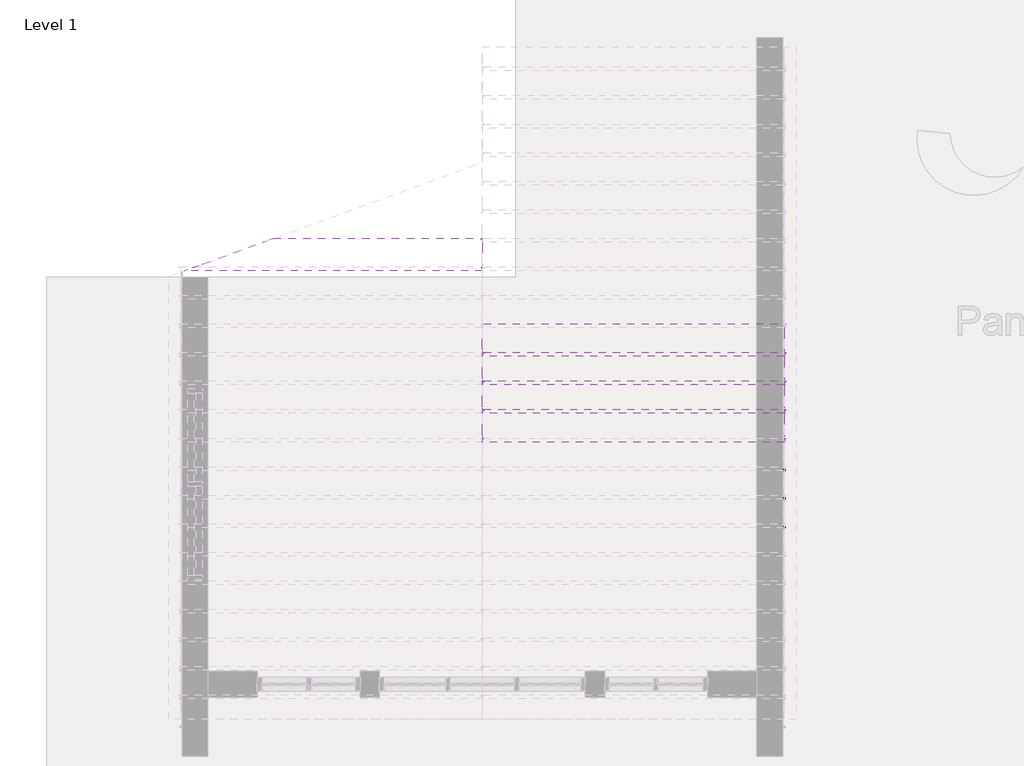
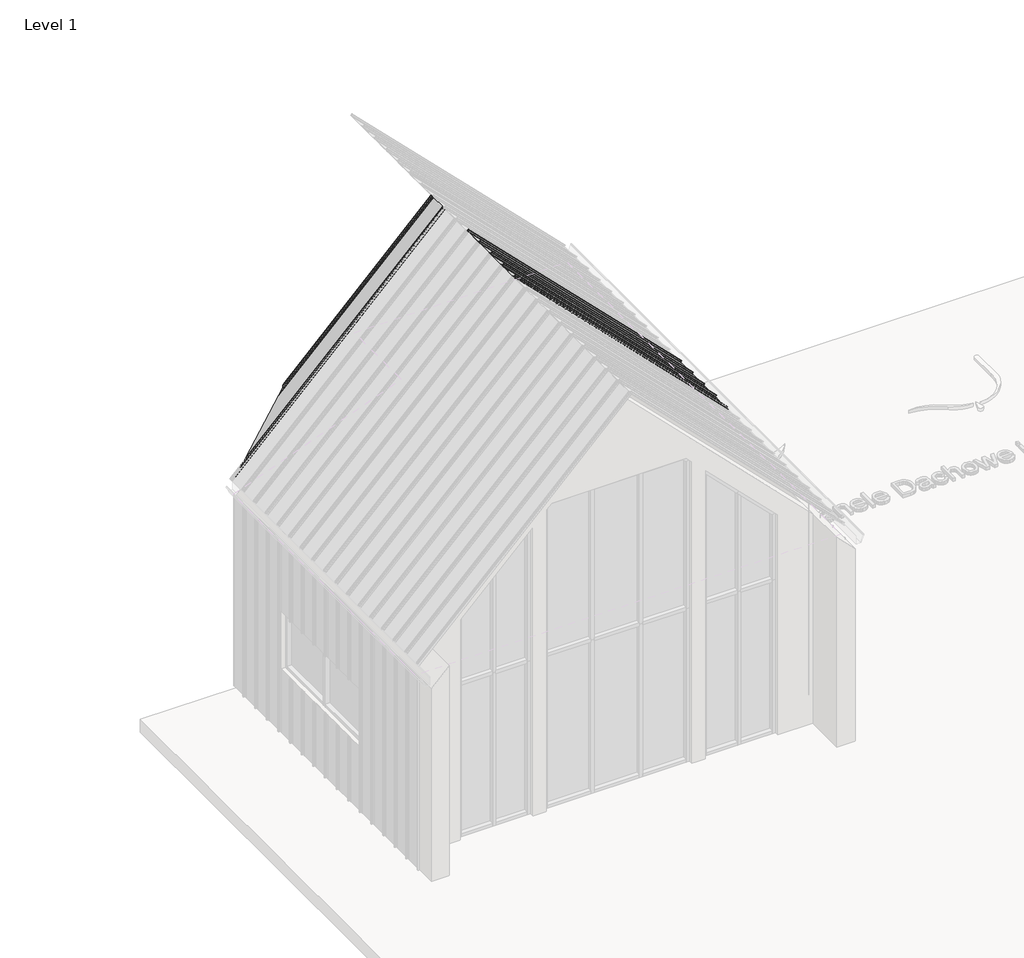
# One storey, part 7 of 24: 8 proxies.
"""IFC4 building model written with IfcOpenShell, lengths in millimetres."""

from ifc_helpers import new_model, si_unit, point, frame, frame_2d, origin, place, context, project, spatial, polyline, circle_curve, ellipse_curve, trimmed, segment, composite_curve, outline, extrude, faceted_brep, transform, mapped, element, save
from ifc_brep_helpers import plane_surface, cylinder_surface, revolved_surface, advanced_brep
from components import aqua_slim_1cb284e8

model = new_model("IFC4")

# Units and contexts
model_context = context("Model", 3, world=origin())
ifc_project = project(units=[si_unit("LENGTHUNIT", "METRE", prefix="MILLI")], contexts=[model_context])

# Site, building, storey
site = spatial("IfcSite", under=ifc_project)
building = spatial("IfcBuilding", under=site)
storey = spatial("IfcBuildingStorey", under=building, Name="Level 1", Elevation=0.0)

# Proxies
placement = place(None, origin())
element("IfcBuildingElementProxy", 1, Name="AQUAPLAST - Panel Dachowy i Elewacyjny Aqua Slim : Aqua Slim", ObjectType="AQUAPLAST - Panel Dachowy i Elewacyjny Aqua Slim : Aqua Slim", at=placement, inside=storey, context=model_context, shape_type="SolidModel", body=[
    faceted_brep([(-5288.1752651, 14030.6302878, 6946.0091876), (-5288.1752651, 13803.4302375, 6946.0091876), (-5287.6095796, 13803.4302375, 6945.4435021), (-5287.6095796, 14030.6302878, 6945.4435021), (-7577.8308562, 14030.6302878, 4656.3535964), (-8202.0578641, 13803.4302375, 4032.1265886), (-8202.0578641, 13803.4302375, 4030.9952177), (-7577.8308562, 14030.6302878, 4655.2222256)], [[[0, 1, 2, 3]], [[1, 0, 4, 5]], [[2, 1, 5, 6]], [[3, 2, 6, 7]], [[0, 3, 7, 4]], [[5, 4, 7, 6]]]),
    advanced_brep(
    [(-5288.1753076, 14034.1302878, 6946.0092301), (-5287.6095796, 14030.6302878, 6945.4435021), (-7577.8308562, 14030.6302878, 4655.2222256), (-7568.2146852, 14034.1302878, 4665.9698524), (-5288.7409505, 14034.1302878, 6946.574873), (-5288.1752651, 14030.6302878, 6946.0091876), (-5288.1753076, 14058.0302126, 6946.0092301), (-5288.5287972, 14058.5301224, 6946.3627197), (-5304.3682363, 14058.5301224, 6962.2021588), (-5304.7220183, 14059.0304456, 6962.5559408), (-5304.7220183, 14069.526965, 6962.5559408), (-5304.3675572, 14070.0282487, 6962.2014797), (-5294.5286279, 14070.0282487, 6952.3625504), (-5293.9366751, 14069.5205199, 6951.7705976), (-5288.9108953, 14070.0494801, 6946.7448179), (-5289.4767511, 14070.0494801, 6947.3106737), (-5293.357646, 14070.0494801, 6951.1915685), (-5293.8348928, 14070.7302878, 6951.6688153), (-5304.9336958, 14070.7302878, 6962.7676183), (-5305.2872492, 14070.2302878, 6963.1211717), (-5305.2872492, 14058.2302878, 6963.1211717), (-5304.9336958, 14057.7302878, 6962.7676183), (-5289.0945039, 14057.7302878, 6946.9284264), (-5288.7409505, 14057.2302878, 6946.574873), (-7568.2146852, 14034.1302878, 4667.1011382), (-7577.8308562, 14030.6302878, 4656.3535964), (-7502.5501815, 14058.0302126, 4731.6343562), (-7501.1766906, 14058.5301224, 4733.7148263), (-7501.1766906, 14058.5301224, 4765.3937044), (-7499.8020637, 14059.0304456, 4767.4758953), (-7470.9631137, 14069.526965, 4796.3148453), (-7469.5858481, 14070.0282487, 4796.9831888), (-7469.5858481, 14070.0282487, 4777.3053302), (-7470.9808216, 14069.5205199, 4774.7264511), (-7469.5275154, 14070.0494801, 4766.1281978), (-7469.5275154, 14070.0494801, 4767.2599094), (-7469.5275154, 14070.0494801, 4775.0216991), (-7467.6570117, 14070.7302878, 4777.8466965), (-7467.6570117, 14070.7302878, 4800.0443024), (-7469.0307504, 14070.2302878, 4799.3776704), (-7502.0004794, 14058.2302878, 4766.4079414), (-7503.3742181, 14057.7302878, 4764.3270959), (-7503.3742181, 14057.7302878, 4732.6487121), (-7504.7479568, 14057.2302878, 4730.5678666)],
    [
        (0, 1),
        (1, 2),
        (2, 3),
        (3, 0),
        (4, 5),
        (5, 1),
        (0, 6),
        (6, 7, circle_curve(frame((-5288.5287972, 14058.0302126, 6946.3627197), z_axis=(0.7071067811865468, 0.0, 0.7071067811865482), x_axis=(0.0, -1.0, 0.0)), 0.4999098)),
        (7, 8),
        (8, 9, circle_curve(frame((-5304.3682363, 14059.0304456, 6962.2021588), z_axis=(-0.7071067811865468, 0.0, -0.7071067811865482), x_axis=(0.0, -1.0, 0.0)), 0.5003233)),
        (9, 10),
        (10, 11, circle_curve(frame((-5304.3675572, 14069.526965, 6962.2014797), z_axis=(-0.7071067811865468, 0.0, -0.7071067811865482), x_axis=(0.0, -1.0, 0.0)), 0.5012837)),
        (11, 12),
        (12, 13, circle_curve(frame((-5294.5286279, 14069.0842362, 6952.3625504), z_axis=(-0.7071067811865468, 0.0, -0.7071067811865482), x_axis=(0.0, -1.0, 0.0)), 0.9440125)),
        (13, 14, circle_curve(frame((-5291.4377034, 14070.0494801, 6949.2716259), z_axis=(0.7071067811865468, 0.0, 0.7071067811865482), x_axis=(0.0, -1.0, 0.0)), 3.5734462)),
        (14, 15),
        (15, 16, circle_curve(frame((-5291.4171986, 14070.0494801, 6949.2511211), z_axis=(-0.7071067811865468, 0.0, -0.7071067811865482), x_axis=(0.0, -1.0, 0.0)), 2.7442071)),
        (16, 17, circle_curve(frame((-5293.8348928, 14070.0553334, 6951.6688153), z_axis=(0.7071067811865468, 0.0, 0.7071067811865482), x_axis=(0.0, -1.0, 0.0)), 0.6749543)),
        (17, 18),
        (18, 19, circle_curve(frame((-5304.9336958, 14070.2302878, 6962.7676183), z_axis=(0.7071067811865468, 0.0, 0.7071067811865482), x_axis=(0.0, -1.0, 0.0)), 0.5)),
        (19, 20),
        (20, 21, circle_curve(frame((-5304.9336958, 14058.2302878, 6962.7676183), z_axis=(0.7071067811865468, 0.0, 0.7071067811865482), x_axis=(0.0, -1.0, 0.0)), 0.5)),
        (21, 22),
        (22, 23, circle_curve(frame((-5289.0945039, 14057.2302878, 6946.9284264), z_axis=(-0.7071067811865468, 0.0, -0.7071067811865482), x_axis=(0.0, -1.0, 0.0)), 0.5)),
        (23, 4),
        (4, 24),
        (24, 25),
        (25, 5),
        (25, 2),
        (3, 26),
        (26, 6),
        (26, 27, ellipse_curve(frame((-7502.5501815, 14058.0302126, 4732.3413354), z_axis=(0.34202014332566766, -0.9396926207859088, 0.0), x_axis=(0.6434931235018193, 0.23421234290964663, 0.7287394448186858)), 2.0670689, 0.4999098)),
        (27, 7),
        (27, 28),
        (28, 8),
        (28, 29, ellipse_curve(frame((-7499.8020637, 14059.0304456, 4766.7683313), z_axis=(-0.34202014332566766, 0.9396926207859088, 0.0), x_axis=(-0.6434931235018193, -0.23421234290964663, -0.7287394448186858)), 2.0687786, 0.5003233)),
        (29, 9),
        (29, 30),
        (30, 10),
        (30, 31, ellipse_curve(frame((-7470.9631137, 14069.526965, 4795.6059231), z_axis=(-0.34202014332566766, 0.9396926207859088, 0.0), x_axis=(-0.6434931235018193, -0.23421234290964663, -0.7287394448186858)), 2.0727498, 0.5012837)),
        (31, 11),
        (31, 32),
        (32, 12),
        (32, 33, ellipse_curve(frame((-7472.1795012, 14069.0842362, 4774.7116771), z_axis=(-0.34202014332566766, 0.9396926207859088, 0.0), x_axis=(-0.6434931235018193, -0.23421234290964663, -0.7287394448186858)), 3.9033822, 0.9440125)),
        (33, 13),
        (33, 34, ellipse_curve(frame((-7469.5275154, 14070.0494801, 4771.1818139), z_axis=(0.34202014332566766, -0.9396926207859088, 0.0), x_axis=(0.6434931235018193, 0.23421234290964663, 0.7287394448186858)), 14.7757851, 3.5734462)),
        (34, 14),
        (34, 35),
        (35, 15),
        (35, 36, ellipse_curve(frame((-7469.5275154, 14070.0494801, 4771.1408042), z_axis=(-0.34202014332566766, 0.9396926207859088, 0.0), x_axis=(-0.6434931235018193, -0.23421234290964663, -0.7287394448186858)), 11.3469774, 2.7442071)),
        (36, 16),
        (36, 37, ellipse_curve(frame((-7469.5114335, 14070.0553334, 4775.9922747), z_axis=(0.34202014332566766, -0.9396926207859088, 0.0), x_axis=(0.6434931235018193, 0.23421234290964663, 0.7287394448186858)), 2.7908578, 0.6749543)),
        (37, 17),
        (37, 38),
        (38, 18),
        (38, 39, ellipse_curve(frame((-7469.0307504, 14070.2302878, 4798.6705637), z_axis=(0.34202014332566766, -0.9396926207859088, 0.0), x_axis=(0.6434931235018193, 0.23421234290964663, 0.7287394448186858)), 2.0674419, 0.5)),
        (39, 19),
        (39, 40),
        (40, 20),
        (40, 41, ellipse_curve(frame((-7502.0004794, 14058.2302878, 4765.7008346), z_axis=(0.34202014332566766, -0.9396926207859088, 0.0), x_axis=(0.6434931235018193, 0.23421234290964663, 0.7287394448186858)), 2.0674419, 0.5)),
        (41, 21),
        (41, 42),
        (42, 22),
        (42, 43, ellipse_curve(frame((-7504.7479568, 14057.2302878, 4731.2749734), z_axis=(-0.34202014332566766, 0.9396926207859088, 0.0), x_axis=(-0.6434931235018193, -0.23421234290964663, -0.7287394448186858)), 2.0674419, 0.5)),
        (43, 23),
        (43, 24),
    ],
    [
        plane_surface(frame((-5287.6095796, 14030.6302878, 6945.4435021), z_axis=(0.6893264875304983, 0.22284072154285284, -0.6893264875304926), x_axis=(-0.7071067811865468, 0.0, -0.7071067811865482))),
        plane_surface(frame((-5287.6095796, 14070.7302878, 6945.4435021), z_axis=(0.7071067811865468, 0.0, 0.7071067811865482), x_axis=(-0.7071067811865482, 0.0, 0.7071067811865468))),
        plane_surface(frame((-5288.7409505, 14034.1302878, 6946.574873), z_axis=(-0.6893290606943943, -0.2228248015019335, 0.6893290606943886), x_axis=(-0.7071067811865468, 0.0, -0.7071067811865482))),
        plane_surface(frame((-5288.1752651, 14030.6302878, 6946.0091876), z_axis=(0.0, -1.0, 0.0), x_axis=(-0.7071067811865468, 0.0, -0.7071067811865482))),
        plane_surface(frame((-5288.1753076, 14034.1302878, 6946.0092301), z_axis=(0.7071067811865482, 0.0, -0.7071067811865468), x_axis=(-0.7071067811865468, 0.0, -0.7071067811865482))),
        cylinder_surface(frame((-5288.5287972, 14058.0302126, 6946.3627197), z_axis=(0.7071067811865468, 0.0, 0.7071067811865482), x_axis=(0.0, -1.0, 0.0)), 0.4999098),
        plane_surface(frame((-5288.5287972, 14058.5301224, 6946.3627197), z_axis=(0.0, 1.0, 0.0), x_axis=(-0.7071067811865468, 0.0, -0.7071067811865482))),
        revolved_surface(polyline([(-7501.221486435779, 14058.530122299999, 4765.348908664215), (-5304.3682363, 14058.530122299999, 6962.2021588)]), (-5304.3682363, 14059.0304456, 6962.2021588), (-0.7071067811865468, 0.0, -0.7071067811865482)),
        plane_surface(frame((-5304.7220183, 14059.0304456, 6962.5559408), z_axis=(0.7071067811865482, 0.0, -0.7071067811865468), x_axis=(-0.7071067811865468, 0.0, -0.7071067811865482))),
        revolved_surface(polyline([(-7472.385261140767, 14069.0256813, 4794.183775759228), (-5304.3675572, 14069.0256813, 6962.2014797)]), (-5304.3675572, 14069.526965, 6962.2014797), (-0.7071067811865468, 0.0, -0.7071067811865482)),
        plane_surface(frame((-5304.3675572, 14070.0282487, 6962.2014797), z_axis=(0.0, -1.0, 0.0), x_axis=(-0.7071067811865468, 0.0, -0.7071067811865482))),
        revolved_surface(polyline([(-7474.857675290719, 14068.1402237, 4772.033503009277), (-5294.5286279, 14068.1402237, 6952.3625504)]), (-5294.5286279, 14069.0842362, 6952.3625504), (-0.7071067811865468, 0.0, -0.7071067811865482)),
        cylinder_surface(frame((-5291.4377034, 14070.0494801, 6949.2716259), z_axis=(0.7071067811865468, 0.0, 0.7071067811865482), x_axis=(0.0, -1.0, 0.0)), 3.5734462),
        plane_surface(frame((-5288.9108953, 14070.0494801, 6946.7448179), z_axis=(0.0, 1.0, 0.0), x_axis=(-0.7071067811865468, 0.0, -0.7071067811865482))),
        revolved_surface(polyline([(-7477.312861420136, 14067.305273, 4763.35545827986), (-5291.417198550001, 14067.305273, 6949.25112115)]), (-5291.4171986, 14070.0494801, 6949.2511211), (-0.7071067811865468, 0.0, -0.7071067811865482)),
        cylinder_surface(frame((-5293.8348928, 14070.0553334, 6951.6688153), z_axis=(0.7071067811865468, 0.0, 0.7071067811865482), x_axis=(0.0, -1.0, 0.0)), 0.6749543),
        plane_surface(frame((-5293.8348928, 14070.7302878, 6951.6688153), z_axis=(0.0, 1.0, 0.0), x_axis=(-0.7071067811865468, 0.0, -0.7071067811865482))),
        cylinder_surface(frame((-5304.9336958, 14070.2302878, 6962.7676183), z_axis=(0.7071067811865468, 0.0, 0.7071067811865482), x_axis=(0.0, -1.0, 0.0)), 0.5),
        plane_surface(frame((-5305.2872492, 14070.2302878, 6963.1211717), z_axis=(-0.7071067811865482, 0.0, 0.7071067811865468), x_axis=(-0.7071067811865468, 0.0, -0.7071067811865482))),
        cylinder_surface(frame((-5304.9336958, 14058.2302878, 6962.7676183), z_axis=(0.7071067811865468, 0.0, 0.7071067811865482), x_axis=(0.0, -1.0, 0.0)), 0.5),
        plane_surface(frame((-5304.9336958, 14057.7302878, 6962.7676183), z_axis=(0.0, -1.0, 0.0), x_axis=(-0.7071067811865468, 0.0, -0.7071067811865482))),
        revolved_surface(polyline([(-7506.166462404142, 14056.7302878, 4729.856467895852), (-5289.0945039, 14056.7302878, 6946.9284264)]), (-5289.0945039, 14057.2302878, 6946.9284264), (-0.7071067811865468, 0.0, -0.7071067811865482)),
        plane_surface(frame((-5288.7409505, 14057.2302878, 6946.574873), z_axis=(-0.7071067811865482, 0.0, 0.7071067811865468), x_axis=(-0.7071067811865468, 0.0, -0.7071067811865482))),
        plane_surface(frame((-5286.1599406, 14864.7302878, 7363.6396103), z_axis=(-0.34202014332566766, 0.9396926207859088, 0.0), x_axis=(0.0, 0.0, -1.0))),
    ],
    [
        (0, [[1, 2, 3, 4]]),
        (1, [[5, 6, -1, 7, 8, 9, 10, 11, 12, 13, 14, 15, 16, 17, 18, 19, 20, 21, 22, 23, 24, 25]]),
        (2, [[-5, 26, 27, 28]]),
        (3, [[-6, -28, 29, -2]]),
        (4, [[-7, -4, 30, 31]]),
        (5, [[-8, -31, 32, 33]]),
        (6, [[-9, -33, 34, 35]]),
        (7, [[-10, -35, 36, 37]]),
        (8, [[-11, -37, 38, 39]]),
        (9, [[-12, -39, 40, 41]]),
        (10, [[-13, -41, 42, 43]]),
        (11, [[-14, -43, 44, 45]]),
        (12, [[-15, -45, 46, 47]]),
        (13, [[-16, -47, 48, 49]]),
        (14, [[-17, -49, 50, 51]]),
        (15, [[-18, -51, 52, 53]]),
        (16, [[-19, -53, 54, 55]]),
        (17, [[-20, -55, 56, 57]]),
        (18, [[-21, -57, 58, 59]]),
        (19, [[-22, -59, 60, 61]]),
        (20, [[-23, -61, 62, 63]]),
        (21, [[-24, -63, 64, 65]]),
        (22, [[-25, -65, 66, -26]]),
        (23, [[-3, -29, -27, -66, -64, -62, -60, -58, -56, -54, -52, -50, -48, -46, -44, -42, -40, -38, -36, -34, -32, -30]]),
    ],
),
    advanced_brep(
    [(-5288.1752651, 13730.7302878, 6946.0091876), (-5287.6095796, 13730.7302878, 6945.4435021), (-5287.6095796, 13761.0580205, 6945.4435021), (-5288.0509427, 13761.7889186, 6945.8848652), (-5300.6771482, 13764.618918, 6958.5110707), (-5301.1402304, 13768.1534309, 6958.9741529), (-5296.019489, 13771.0651946, 6953.8534115), (-5294.5048518, 13770.2261585, 6952.3387743), (-5288.1752651, 13772.2364857, 6946.0091876), (-5288.1752651, 13799.9302375, 6946.0091876), (-5287.6095796, 13803.4302375, 6945.4435021), (-5288.1752651, 13803.4302375, 6946.0091876), (-5288.7409505, 13799.9302375, 6946.574873), (-5288.7409505, 13772.0773102, 6946.574873), (-5293.9752443, 13770.5118744, 6951.8091668), (-5296.2321549, 13771.8065114, 6954.0660774), (-5301.4230731, 13768.8462512, 6959.2569956), (-5300.8786897, 13763.8590529, 6958.7126122), (-5288.5642668, 13760.8260962, 6946.3981893), (-5288.1752651, 13760.1718758, 6946.0091876), (-8401.7993343, 13730.7302878, 3832.3851183), (-8401.7993343, 13730.7302878, 3831.2537475), (-8318.4745735, 13761.0580205, 3914.5785083), (-8316.4664473, 13761.7889186, 3917.4693607), (-8308.6910878, 13764.618918, 3950.497131), (-8298.9800936, 13768.1534309, 3961.1342897), (-8290.9800886, 13771.0651946, 3958.8928119), (-8293.2853213, 13770.2261585, 3953.5583047), (-8287.7619927, 13772.2364857, 3946.4224599), (-8211.674035, 13799.9302375, 4022.5104176), (-8202.0578641, 13803.4302375, 4030.9952177), (-8202.0578641, 13803.4302375, 4032.1265886), (-8211.674035, 13799.9302375, 4023.6417884), (-8288.1993237, 13772.0773102, 3947.1164997), (-8292.5003232, 13770.5118744, 3953.2840879), (-8288.9433374, 13771.8065114, 3961.3548949), (-8297.0765854, 13768.8462512, 3963.6034833), (-8310.7788002, 13763.8590529, 3948.8125016), (-8319.1117802, 13760.8260962, 3915.8506759), (-8320.9092361, 13760.1718758, 3913.2752165)],
    [
        (0, 1),
        (1, 2),
        (2, 3, circle_curve(frame((-5288.1328534, 13761.0580205, 6945.9667759), z_axis=(0.7071067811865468, 0.0, 0.7071067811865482), x_axis=(0.0, -1.0, 0.0)), 0.7400208)),
        (3, 4),
        (4, 5, circle_curve(frame((-5300.4660973, 13766.5021488, 6958.3000198), z_axis=(-0.7071067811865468, 0.0, -0.7071067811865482), x_axis=(0.0, -1.0, 0.0)), 1.9067363)),
        (5, 6),
        (6, 7, circle_curve(frame((-5295.577024, 13769.5089221, 6953.4109465), z_axis=(-0.7071067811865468, 0.0, -0.7071067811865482), x_axis=(0.0, -1.0, 0.0)), 1.6773594)),
        (7, 8, circle_curve(frame((-5291.4996824, 13772.2364857, 6949.3336049), z_axis=(0.7071067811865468, 0.0, 0.7071067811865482), x_axis=(0.0, -1.0, 0.0)), 4.7014361)),
        (8, 9),
        (9, 10),
        (10, 11),
        (11, 12),
        (12, 13),
        (13, 14, circle_curve(frame((-5291.4751423, 13772.0773102, 6949.3090648), z_axis=(-0.7071067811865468, 0.0, -0.7071067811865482), x_axis=(0.0, -1.0, 0.0)), 3.8667311)),
        (14, 15, circle_curve(frame((-5295.577024, 13769.5089221, 6953.4109465), z_axis=(0.7071067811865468, 0.0, 0.7071067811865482), x_axis=(0.0, -1.0, 0.0)), 2.4773594)),
        (15, 16),
        (16, 17, circle_curve(frame((-5300.4660973, 13766.5021488, 6958.3000198), z_axis=(0.7071067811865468, 0.0, 0.7071067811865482), x_axis=(0.0, -1.0, 0.0)), 2.7067363)),
        (17, 18),
        (18, 19, circle_curve(frame((-5288.6448318, 13760.1718758, 6946.4787543), z_axis=(-0.7071067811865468, 0.0, -0.7071067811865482), x_axis=(0.0, -1.0, 0.0)), 0.6640676)),
        (19, 0),
        (0, 20),
        (20, 21),
        (21, 1),
        (21, 22),
        (22, 2),
        (22, 23, ellipse_curve(frame((-8318.4745735, 13761.0580205, 3915.6250558), z_axis=(0.34202014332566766, -0.9396926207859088, 0.0), x_axis=(0.6434931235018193, 0.23421234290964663, 0.7287394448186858)), 3.0599002, 0.7400208)),
        (23, 3),
        (23, 24),
        (24, 4),
        (24, 25, ellipse_curve(frame((-8303.5169537, 13766.5021488, 3955.2491635), z_axis=(-0.34202014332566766, 0.9396926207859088, 0.0), x_axis=(-0.6434931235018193, -0.23421234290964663, -0.7287394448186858)), 7.884133, 1.9067363)),
        (25, 5),
        (25, 26),
        (26, 6),
        (26, 27, ellipse_curve(frame((-8295.2559122, 13769.5089221, 3953.7320583), z_axis=(-0.34202014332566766, 0.9396926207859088, 0.0), x_axis=(-0.6434931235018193, -0.23421234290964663, -0.7287394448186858)), 6.9356864, 1.6773594)),
        (27, 7),
        (27, 28, ellipse_curve(frame((-8287.7619927, 13772.2364857, 3953.0712946), z_axis=(0.34202014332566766, -0.9396926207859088, 0.0), x_axis=(0.6434931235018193, 0.23421234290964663, 0.7287394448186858)), 19.4398921, 4.7014361)),
        (28, 8),
        (28, 29),
        (29, 9),
        (29, 30),
        (30, 10),
        (30, 31),
        (31, 11),
        (31, 32),
        (32, 12),
        (32, 33),
        (33, 13),
        (33, 34, ellipse_curve(frame((-8288.1993237, 13772.0773102, 3952.5848833), z_axis=(-0.34202014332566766, 0.9396926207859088, 0.0), x_axis=(-0.6434931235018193, -0.23421234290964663, -0.7287394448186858)), 15.988484, 3.8667311)),
        (34, 14),
        (34, 35, ellipse_curve(frame((-8295.2559122, 13769.5089221, 3953.7320583), z_axis=(0.34202014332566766, -0.9396926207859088, 0.0), x_axis=(0.6434931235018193, 0.23421234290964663, 0.7287394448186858)), 10.2435935, 2.4773594)),
        (35, 15),
        (35, 36),
        (36, 16),
        (36, 37, ellipse_curve(frame((-8303.5169537, 13766.5021488, 3955.2491635), z_axis=(0.34202014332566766, -0.9396926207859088, 0.0), x_axis=(0.6434931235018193, 0.23421234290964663, 0.7287394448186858)), 11.19204, 2.7067363)),
        (37, 17),
        (37, 38),
        (38, 18),
        (38, 39, ellipse_curve(frame((-8320.9092361, 13760.1718758, 3914.21435), z_axis=(-0.34202014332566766, 0.9396926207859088, 0.0), x_axis=(-0.6434931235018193, -0.23421234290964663, -0.7287394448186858)), 2.7458424, 0.6640676)),
        (39, 19),
        (39, 20),
    ],
    [
        plane_surface(frame((-5287.6095796, 13730.7302878, 6945.4435021), z_axis=(0.7071067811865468, 0.0, 0.7071067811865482), x_axis=(-0.7071067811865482, 0.0, 0.7071067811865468))),
        plane_surface(frame((-5288.1752651, 13730.7302878, 6946.0091876), z_axis=(0.0, -1.0, 0.0), x_axis=(-0.7071067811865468, 0.0, -0.7071067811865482))),
        plane_surface(frame((-5287.6095796, 13730.7302878, 6945.4435021), z_axis=(0.7071067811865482, 0.0, -0.7071067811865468), x_axis=(-0.7071067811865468, 0.0, -0.7071067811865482))),
        cylinder_surface(frame((-5288.1328534, 13761.0580205, 6945.9667759), z_axis=(0.7071067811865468, 0.0, 0.7071067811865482), x_axis=(0.0, -1.0, 0.0)), 0.7400208),
        plane_surface(frame((-5288.0509427, 13761.7889186, 6945.8848652), z_axis=(0.1106869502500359, 0.9876724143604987, -0.11068695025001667), x_axis=(-0.7071067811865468, 0.0, -0.7071067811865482))),
        revolved_surface(polyline([(-8308.92638568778, 13764.5954125, 3949.839731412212), (-5300.4660973, 13764.5954125, 6958.3000198)]), (-5300.4660973, 13766.5021488, 6958.3000198), (-0.7071067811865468, 0.0, -0.7071067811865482)),
        plane_surface(frame((-5301.1402304, 13768.1534309, 6958.9741529), z_axis=(0.2637866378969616, -0.9278109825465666, -0.263786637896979), x_axis=(-0.7071067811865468, 0.0, -0.7071067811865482))),
        revolved_surface(polyline([(-8300.014599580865, 13767.8315627, 3948.9733709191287), (-5295.577024, 13767.8315627, 6953.4109465)]), (-5295.577024, 13769.5089221, 6953.4109465), (-0.7071067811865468, 0.0, -0.7071067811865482)),
        cylinder_surface(frame((-5291.4996824, 13772.2364857, 6949.3336049), z_axis=(0.7071067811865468, 0.0, 0.7071067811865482), x_axis=(0.0, -1.0, 0.0)), 4.7014361),
        plane_surface(frame((-5288.1752651, 13772.2364857, 6946.0091876), z_axis=(0.7071067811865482, 0.0, -0.7071067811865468), x_axis=(-0.7071067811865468, 0.0, -0.7071067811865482))),
        plane_surface(frame((-5288.1752651, 13799.9302375, 6946.0091876), z_axis=(0.6893290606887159, -0.22282480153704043, -0.6893290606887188), x_axis=(-0.7071067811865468, 0.0, -0.7071067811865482))),
        plane_surface(frame((-5287.6095796, 13803.4302375, 6945.4435021), z_axis=(0.0, 1.0, 0.0), x_axis=(-0.7071067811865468, 0.0, -0.7071067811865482))),
        plane_surface(frame((-5288.1752651, 13803.4302375, 6946.0091876), z_axis=(-0.6893290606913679, 0.22282480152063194, 0.6893290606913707), x_axis=(-0.7071067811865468, 0.0, -0.7071067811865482))),
        plane_surface(frame((-5288.7409505, 13799.9302375, 6946.574873), z_axis=(-0.7071067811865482, 0.0, 0.7071067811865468), x_axis=(-0.7071067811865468, 0.0, -0.7071067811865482))),
        revolved_surface(polyline([(-8299.169282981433, 13768.2105791, 3941.614924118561), (-5291.4751423, 13768.2105791, 6949.3090648)]), (-5291.4751423, 13772.0773102, 6949.3090648), (-0.7071067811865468, 0.0, -0.7071067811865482)),
        cylinder_surface(frame((-5295.577024, 13769.5089221, 6953.4109465), z_axis=(0.7071067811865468, 0.0, 0.7071067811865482), x_axis=(0.0, -1.0, 0.0)), 2.4773594),
        plane_surface(frame((-5296.2321549, 13771.8065114, 6954.0660774), z_axis=(-0.2644472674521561, 0.9274347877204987, 0.2644472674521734), x_axis=(-0.7071067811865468, 0.0, -0.7071067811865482))),
        cylinder_surface(frame((-5300.4660973, 13766.5021488, 6958.3000198), z_axis=(0.7071067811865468, 0.0, 0.7071067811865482), x_axis=(0.0, -1.0, 0.0)), 2.7067363),
        plane_surface(frame((-5300.8786897, 13763.8590529, 6958.7126122), z_axis=(-0.1213204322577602, -0.9851714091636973, 0.12132043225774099), x_axis=(-0.7071067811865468, 0.0, -0.7071067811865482))),
        revolved_surface(polyline([(-8322.793203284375, 13759.5078082, 3912.3303828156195), (-5288.6448318, 13759.5078082, 6946.4787543)]), (-5288.6448318, 13760.1718758, 6946.4787543), (-0.7071067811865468, 0.0, -0.7071067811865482)),
        plane_surface(frame((-5288.1752651, 13760.1718758, 6946.0091876), z_axis=(-0.7071067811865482, 0.0, 0.7071067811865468), x_axis=(-0.7071067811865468, 0.0, -0.7071067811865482))),
        plane_surface(frame((-5286.1599406, 14864.7302878, 7363.6396103), z_axis=(-0.34202014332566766, 0.9396926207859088, 0.0), x_axis=(0.0, 0.0, -1.0))),
    ],
    [
        (0, [[1, 2, 3, 4, 5, 6, 7, 8, 9, 10, 11, 12, 13, 14, 15, 16, 17, 18, 19, 20]]),
        (1, [[-1, 21, 22, 23]]),
        (2, [[-2, -23, 24, 25]]),
        (3, [[-3, -25, 26, 27]]),
        (4, [[-4, -27, 28, 29]]),
        (5, [[-5, -29, 30, 31]]),
        (6, [[-6, -31, 32, 33]]),
        (7, [[-7, -33, 34, 35]]),
        (8, [[-8, -35, 36, 37]]),
        (9, [[-9, -37, 38, 39]]),
        (10, [[-10, -39, 40, 41]]),
        (11, [[-11, -41, 42, 43]]),
        (12, [[-12, -43, 44, 45]]),
        (13, [[-13, -45, 46, 47]]),
        (14, [[-14, -47, 48, 49]]),
        (15, [[-15, -49, 50, 51]]),
        (16, [[-16, -51, 52, 53]]),
        (17, [[-17, -53, 54, 55]]),
        (18, [[-18, -55, 56, 57]]),
        (19, [[-19, -57, 58, 59]]),
        (20, [[-20, -59, 60, -21]]),
        (21, [[-22, -60, -58, -56, -54, -52, -50, -48, -46, -44, -42, -40, -38, -36, -34, -32, -30, -28, -26, -24]]),
    ],
),
])
element("IfcBuildingElementProxy", 2, Name="AQUAPLAST - Panel Dachowy i Elewacyjny Aqua Slim : Aqua Slim", ObjectType="AQUAPLAST - Panel Dachowy i Elewacyjny Aqua Slim : Aqua Slim", at=placement, inside=storey, context=model_context, shape_type="SweptSolid", body=[
    extrude(outline(polyline([(0.0, 227.2000503), (4454.0, 227.2000503), (4454.0, 0.0), (0.0, 0.0), (0.0, 227.2000503)])), frame((-5286.5167864, 12015.4302375, 6945.4435021), z_axis=(0.7071067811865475, 0.0, 0.7071067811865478), x_axis=(0.7071067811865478, 0.0, -0.7071067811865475)), (0.0, 0.0, 1.0), 0.8),
    extrude(outline(composite_curve([segment(polyline([(1.6, -36.6), (0.8, -40.1), (0.0, -40.1), (0.8000601, -36.6), (0.8000601, -12.7000752)]), True, "CONTINUOUS"), segment(trimmed(circle_curve(frame_2d((1.2999699, -12.7000752)), 0.4999098), [point((0.8000601, -12.7000752))], [point((1.2999699, -12.2001654))], False, "CARTESIAN"), True, "CONTINUOUS"), segment(polyline([(1.2999699, -12.2001654), (23.7003195, -12.2001654)]), True, "CONTINUOUS"), segment(trimmed(circle_curve(frame_2d((23.7003195, -11.6998422)), 0.5003233), [point((23.7003195, -12.2001654))], [point((24.2006428, -11.6998422))], True, "CARTESIAN"), True, "CONTINUOUS"), segment(polyline([(24.2006428, -11.6998422), (24.2006428, -1.2033228)]), True, "CONTINUOUS"), segment(trimmed(circle_curve(frame_2d((23.6993591, -1.2033228)), 0.5012837), [point((24.2006428, -1.2033228))], [point((23.6993591, -0.7020391))], True, "CARTESIAN"), True, "CONTINUOUS"), segment(polyline([(23.6993591, -0.7020391), (9.7850119, -0.7020391)]), True, "CONTINUOUS"), segment(trimmed(circle_curve(frame_2d((9.7850119, -1.6460516)), 0.9440125), [point((9.7850119, -0.7020391))], [point((8.9478642, -1.2097679))], True, "CARTESIAN"), True, "CONTINUOUS"), segment(trimmed(circle_curve(frame_2d((5.4137845, -0.6808077)), 3.5734462), [point((8.9478642, -1.2097679))], [point((1.8403383, -0.6808077))], False, "CARTESIAN"), True, "CONTINUOUS"), segment(polyline([(1.8403383, -0.6808077), (2.6405793, -0.6808077)]), True, "CONTINUOUS"), segment(trimmed(circle_curve(frame_2d((5.3847864, -0.6808077)), 2.7442071), [point((2.6405793, -0.6808077))], [point((8.1289934, -0.6808077))], True, "CARTESIAN"), True, "CONTINUOUS"), segment(trimmed(circle_curve(frame_2d((8.8039224, -0.6749544)), 0.6749543), [point((8.1289934, -0.6808077))], [point((8.8039224, 0.0))], False, "CARTESIAN"), True, "CONTINUOUS"), segment(polyline([(8.8039224, 0.0), (24.5, 0.0)]), True, "CONTINUOUS"), segment(trimmed(circle_curve(frame_2d((24.5, -0.5)), 0.5), [point((24.5, 0.0))], [point((25.0, -0.5))], False, "CARTESIAN"), True, "CONTINUOUS"), segment(polyline([(25.0, -0.5), (25.0, -12.5)]), True, "CONTINUOUS"), segment(trimmed(circle_curve(frame_2d((24.5, -12.5)), 0.5), [point((25.0, -12.5))], [point((24.5, -13.0))], False, "CARTESIAN"), True, "CONTINUOUS"), segment(polyline([(24.5, -13.0), (2.1, -13.0)]), True, "CONTINUOUS"), segment(trimmed(circle_curve(frame_2d((2.1, -13.5)), 0.5), [point((2.1, -13.0))], [point((1.6, -13.5))], True, "CARTESIAN"), True, "CONTINUOUS"), segment(polyline([(1.6, -13.5), (1.6, -36.6)]), True, "CONTINUOUS")], self_intersect=False)), frame((-2137.063183, 12282.7302878, 3795.9898987), z_axis=(-0.7071067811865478, 0.0, 0.7071067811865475), x_axis=(0.7071067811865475, 0.0, 0.7071067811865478)), (0.0, 0.0, 1.0), 4454.0),
    extrude(outline(composite_curve([segment(polyline([(0.8, 0.0), (0.0, 0.0), (0.0, 30.3277327)]), True, "CONTINUOUS"), segment(trimmed(circle_curve(frame_2d((0.7400208, 30.3277327)), 0.7400208), [point((0.0, 30.3277327))], [point((0.6241817, 31.0586308))], False, "CARTESIAN"), True, "CONTINUOUS"), segment(polyline([(0.6241817, 31.0586308), (18.4803327, 33.8886302)]), True, "CONTINUOUS"), segment(trimmed(circle_curve(frame_2d((18.1818617, 35.771861)), 1.9067363), [point((18.4803327, 33.8886302))], [point((19.1352298, 37.4231431))], True, "CARTESIAN"), True, "CONTINUOUS"), segment(polyline([(19.1352298, 37.4231431), (11.8934079, 40.3349068)]), True, "CONTINUOUS"), segment(trimmed(circle_curve(frame_2d((11.2676679, 38.7786343)), 1.6773594), [point((11.8934079, 40.3349068))], [point((9.7513874, 39.4958707))], True, "CARTESIAN"), True, "CONTINUOUS"), segment(trimmed(circle_curve(frame_2d((5.5014361, 41.5061979)), 4.7014361), [point((9.7513874, 39.4958707))], [point((0.8, 41.5061979))], False, "CARTESIAN"), True, "CONTINUOUS"), segment(polyline([(0.8, 41.5061979), (0.8, 69.1999497), (0.0, 72.6999497), (0.8, 72.6999497), (1.6, 69.1999497), (1.6, 41.3470224)]), True, "CONTINUOUS"), segment(trimmed(circle_curve(frame_2d((5.4667311, 41.3470224)), 3.8667311), [point((1.6, 41.3470224))], [point((9.0024093, 39.7815866))], True, "CARTESIAN"), True, "CONTINUOUS"), segment(trimmed(circle_curve(frame_2d((11.2676679, 38.7786343)), 2.4773594), [point((9.0024093, 39.7815866))], [point((12.1941629, 41.0762236))], False, "CARTESIAN"), True, "CONTINUOUS"), segment(polyline([(12.1941629, 41.0762236), (19.5352299, 38.1159634)]), True, "CONTINUOUS"), segment(trimmed(circle_curve(frame_2d((18.1818617, 35.771861)), 2.7067363), [point((19.5352299, 38.1159634))], [point((18.7653554, 33.1287651))], False, "CARTESIAN"), True, "CONTINUOUS"), segment(polyline([(18.7653554, 33.1287651), (1.3501315, 30.0958084)]), True, "CONTINUOUS"), segment(trimmed(circle_curve(frame_2d((1.4640676, 29.441588)), 0.6640676), [point((1.3501315, 30.0958084))], [point((0.8, 29.441588))], True, "CARTESIAN"), True, "CONTINUOUS"), segment(polyline([(0.8, 29.441588), (0.8, 0.0)]), True, "CONTINUOUS")], self_intersect=False)), frame((-2137.063183, 11942.7302878, 3795.9898987), z_axis=(-0.7071067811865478, 0.0, 0.7071067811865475), x_axis=(0.7071067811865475, 0.0, 0.7071067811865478)), (0.0, 0.0, 1.0), 4454.0),
])
element("IfcBuildingElementProxy", 3, Name="AQUAPLAST - Panel Dachowy i Elewacyjny Aqua Slim : Aqua Slim", ObjectType="AQUAPLAST - Panel Dachowy i Elewacyjny Aqua Slim : Aqua Slim", at=placement, inside=storey, context=model_context, shape_type="SweptSolid", body=[
    extrude(outline(polyline([(0.0, 227.2000503), (4454.0, 227.2000503), (4454.0, 0.0), (0.0, 0.0), (0.0, 227.2000503)])), frame((-5286.5167864, 12313.4302375, 6945.4435021), z_axis=(0.7071067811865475, 0.0, 0.7071067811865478), x_axis=(0.7071067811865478, 0.0, -0.7071067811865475)), (0.0, 0.0, 1.0), 0.8),
    extrude(outline(composite_curve([segment(polyline([(1.6, -36.6), (0.8, -40.1), (0.0, -40.1), (0.8000601, -36.6), (0.8000601, -12.7000752)]), True, "CONTINUOUS"), segment(trimmed(circle_curve(frame_2d((1.2999699, -12.7000752)), 0.4999098), [point((0.8000601, -12.7000752))], [point((1.2999699, -12.2001654))], False, "CARTESIAN"), True, "CONTINUOUS"), segment(polyline([(1.2999699, -12.2001654), (23.7003195, -12.2001654)]), True, "CONTINUOUS"), segment(trimmed(circle_curve(frame_2d((23.7003195, -11.6998422)), 0.5003233), [point((23.7003195, -12.2001654))], [point((24.2006428, -11.6998422))], True, "CARTESIAN"), True, "CONTINUOUS"), segment(polyline([(24.2006428, -11.6998422), (24.2006428, -1.2033228)]), True, "CONTINUOUS"), segment(trimmed(circle_curve(frame_2d((23.6993591, -1.2033228)), 0.5012837), [point((24.2006428, -1.2033228))], [point((23.6993591, -0.7020391))], True, "CARTESIAN"), True, "CONTINUOUS"), segment(polyline([(23.6993591, -0.7020391), (9.7850119, -0.7020391)]), True, "CONTINUOUS"), segment(trimmed(circle_curve(frame_2d((9.7850119, -1.6460516)), 0.9440125), [point((9.7850119, -0.7020391))], [point((8.9478642, -1.2097679))], True, "CARTESIAN"), True, "CONTINUOUS"), segment(trimmed(circle_curve(frame_2d((5.4137845, -0.6808077)), 3.5734462), [point((8.9478642, -1.2097679))], [point((1.8403383, -0.6808077))], False, "CARTESIAN"), True, "CONTINUOUS"), segment(polyline([(1.8403383, -0.6808077), (2.6405793, -0.6808077)]), True, "CONTINUOUS"), segment(trimmed(circle_curve(frame_2d((5.3847864, -0.6808077)), 2.7442071), [point((2.6405793, -0.6808077))], [point((8.1289934, -0.6808077))], True, "CARTESIAN"), True, "CONTINUOUS"), segment(trimmed(circle_curve(frame_2d((8.8039224, -0.6749544)), 0.6749543), [point((8.1289934, -0.6808077))], [point((8.8039224, 0.0))], False, "CARTESIAN"), True, "CONTINUOUS"), segment(polyline([(8.8039224, 0.0), (24.5, 0.0)]), True, "CONTINUOUS"), segment(trimmed(circle_curve(frame_2d((24.5, -0.5)), 0.5), [point((24.5, 0.0))], [point((25.0, -0.5))], False, "CARTESIAN"), True, "CONTINUOUS"), segment(polyline([(25.0, -0.5), (25.0, -12.5)]), True, "CONTINUOUS"), segment(trimmed(circle_curve(frame_2d((24.5, -12.5)), 0.5), [point((25.0, -12.5))], [point((24.5, -13.0))], False, "CARTESIAN"), True, "CONTINUOUS"), segment(polyline([(24.5, -13.0), (2.1, -13.0)]), True, "CONTINUOUS"), segment(trimmed(circle_curve(frame_2d((2.1, -13.5)), 0.5), [point((2.1, -13.0))], [point((1.6, -13.5))], True, "CARTESIAN"), True, "CONTINUOUS"), segment(polyline([(1.6, -13.5), (1.6, -36.6)]), True, "CONTINUOUS")], self_intersect=False)), frame((-2137.063183, 12580.7302878, 3795.9898987), z_axis=(-0.7071067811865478, 0.0, 0.7071067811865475), x_axis=(0.7071067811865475, 0.0, 0.7071067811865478)), (0.0, 0.0, 1.0), 4454.0),
    extrude(outline(composite_curve([segment(polyline([(0.8, 0.0), (0.0, 0.0), (0.0, 30.3277327)]), True, "CONTINUOUS"), segment(trimmed(circle_curve(frame_2d((0.7400208, 30.3277327)), 0.7400208), [point((0.0, 30.3277327))], [point((0.6241817, 31.0586308))], False, "CARTESIAN"), True, "CONTINUOUS"), segment(polyline([(0.6241817, 31.0586308), (18.4803327, 33.8886302)]), True, "CONTINUOUS"), segment(trimmed(circle_curve(frame_2d((18.1818617, 35.771861)), 1.9067363), [point((18.4803327, 33.8886302))], [point((19.1352298, 37.4231431))], True, "CARTESIAN"), True, "CONTINUOUS"), segment(polyline([(19.1352298, 37.4231431), (11.8934079, 40.3349068)]), True, "CONTINUOUS"), segment(trimmed(circle_curve(frame_2d((11.2676679, 38.7786343)), 1.6773594), [point((11.8934079, 40.3349068))], [point((9.7513874, 39.4958707))], True, "CARTESIAN"), True, "CONTINUOUS"), segment(trimmed(circle_curve(frame_2d((5.5014361, 41.5061979)), 4.7014361), [point((9.7513874, 39.4958707))], [point((0.8, 41.5061979))], False, "CARTESIAN"), True, "CONTINUOUS"), segment(polyline([(0.8, 41.5061979), (0.8, 69.1999497), (0.0, 72.6999497), (0.8, 72.6999497), (1.6, 69.1999497), (1.6, 41.3470224)]), True, "CONTINUOUS"), segment(trimmed(circle_curve(frame_2d((5.4667311, 41.3470224)), 3.8667311), [point((1.6, 41.3470224))], [point((9.0024093, 39.7815866))], True, "CARTESIAN"), True, "CONTINUOUS"), segment(trimmed(circle_curve(frame_2d((11.2676679, 38.7786343)), 2.4773594), [point((9.0024093, 39.7815866))], [point((12.1941629, 41.0762236))], False, "CARTESIAN"), True, "CONTINUOUS"), segment(polyline([(12.1941629, 41.0762236), (19.5352299, 38.1159634)]), True, "CONTINUOUS"), segment(trimmed(circle_curve(frame_2d((18.1818617, 35.771861)), 2.7067363), [point((19.5352299, 38.1159634))], [point((18.7653554, 33.1287651))], False, "CARTESIAN"), True, "CONTINUOUS"), segment(polyline([(18.7653554, 33.1287651), (1.3501315, 30.0958084)]), True, "CONTINUOUS"), segment(trimmed(circle_curve(frame_2d((1.4640676, 29.441588)), 0.6640676), [point((1.3501315, 30.0958084))], [point((0.8, 29.441588))], True, "CARTESIAN"), True, "CONTINUOUS"), segment(polyline([(0.8, 29.441588), (0.8, 0.0)]), True, "CONTINUOUS")], self_intersect=False)), frame((-2137.063183, 12240.7302878, 3795.9898987), z_axis=(-0.7071067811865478, 0.0, 0.7071067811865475), x_axis=(0.7071067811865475, 0.0, 0.7071067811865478)), (0.0, 0.0, 1.0), 4454.0),
])
element("IfcBuildingElementProxy", 4, Name="AQUAPLAST - Panel Dachowy i Elewacyjny Aqua Slim : Aqua Slim", ObjectType="AQUAPLAST - Panel Dachowy i Elewacyjny Aqua Slim : Aqua Slim", at=placement, inside=storey, context=model_context, shape_type="SweptSolid", body=[
    extrude(outline(polyline([(0.0, 227.2000503), (4454.0, 227.2000503), (4454.0, 0.0), (0.0, 0.0), (0.0, 227.2000503)])), frame((-5286.5167864, 12611.4302375, 6945.4435021), z_axis=(0.7071067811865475, 0.0, 0.7071067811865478), x_axis=(0.7071067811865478, 0.0, -0.7071067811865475)), (0.0, 0.0, 1.0), 0.8),
    extrude(outline(composite_curve([segment(polyline([(1.6, -36.6), (0.8, -40.1), (0.0, -40.1), (0.8000601, -36.6), (0.8000601, -12.7000752)]), True, "CONTINUOUS"), segment(trimmed(circle_curve(frame_2d((1.2999699, -12.7000752)), 0.4999098), [point((0.8000601, -12.7000752))], [point((1.2999699, -12.2001654))], False, "CARTESIAN"), True, "CONTINUOUS"), segment(polyline([(1.2999699, -12.2001654), (23.7003195, -12.2001654)]), True, "CONTINUOUS"), segment(trimmed(circle_curve(frame_2d((23.7003195, -11.6998422)), 0.5003233), [point((23.7003195, -12.2001654))], [point((24.2006428, -11.6998422))], True, "CARTESIAN"), True, "CONTINUOUS"), segment(polyline([(24.2006428, -11.6998422), (24.2006428, -1.2033228)]), True, "CONTINUOUS"), segment(trimmed(circle_curve(frame_2d((23.6993591, -1.2033228)), 0.5012837), [point((24.2006428, -1.2033228))], [point((23.6993591, -0.7020391))], True, "CARTESIAN"), True, "CONTINUOUS"), segment(polyline([(23.6993591, -0.7020391), (9.7850119, -0.7020391)]), True, "CONTINUOUS"), segment(trimmed(circle_curve(frame_2d((9.7850119, -1.6460516)), 0.9440125), [point((9.7850119, -0.7020391))], [point((8.9478642, -1.2097679))], True, "CARTESIAN"), True, "CONTINUOUS"), segment(trimmed(circle_curve(frame_2d((5.4137845, -0.6808077)), 3.5734462), [point((8.9478642, -1.2097679))], [point((1.8403383, -0.6808077))], False, "CARTESIAN"), True, "CONTINUOUS"), segment(polyline([(1.8403383, -0.6808077), (2.6405793, -0.6808077)]), True, "CONTINUOUS"), segment(trimmed(circle_curve(frame_2d((5.3847864, -0.6808077)), 2.7442071), [point((2.6405793, -0.6808077))], [point((8.1289934, -0.6808077))], True, "CARTESIAN"), True, "CONTINUOUS"), segment(trimmed(circle_curve(frame_2d((8.8039224, -0.6749544)), 0.6749543), [point((8.1289934, -0.6808077))], [point((8.8039224, 0.0))], False, "CARTESIAN"), True, "CONTINUOUS"), segment(polyline([(8.8039224, 0.0), (24.5, 0.0)]), True, "CONTINUOUS"), segment(trimmed(circle_curve(frame_2d((24.5, -0.5)), 0.5), [point((24.5, 0.0))], [point((25.0, -0.5))], False, "CARTESIAN"), True, "CONTINUOUS"), segment(polyline([(25.0, -0.5), (25.0, -12.5)]), True, "CONTINUOUS"), segment(trimmed(circle_curve(frame_2d((24.5, -12.5)), 0.5), [point((25.0, -12.5))], [point((24.5, -13.0))], False, "CARTESIAN"), True, "CONTINUOUS"), segment(polyline([(24.5, -13.0), (2.1, -13.0)]), True, "CONTINUOUS"), segment(trimmed(circle_curve(frame_2d((2.1, -13.5)), 0.5), [point((2.1, -13.0))], [point((1.6, -13.5))], True, "CARTESIAN"), True, "CONTINUOUS"), segment(polyline([(1.6, -13.5), (1.6, -36.6)]), True, "CONTINUOUS")], self_intersect=False)), frame((-2137.063183, 12878.7302878, 3795.9898987), z_axis=(-0.7071067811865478, 0.0, 0.7071067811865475), x_axis=(0.7071067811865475, 0.0, 0.7071067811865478)), (0.0, 0.0, 1.0), 4454.0),
    extrude(outline(composite_curve([segment(polyline([(0.8, 0.0), (0.0, 0.0), (0.0, 30.3277327)]), True, "CONTINUOUS"), segment(trimmed(circle_curve(frame_2d((0.7400208, 30.3277327)), 0.7400208), [point((0.0, 30.3277327))], [point((0.6241817, 31.0586308))], False, "CARTESIAN"), True, "CONTINUOUS"), segment(polyline([(0.6241817, 31.0586308), (18.4803327, 33.8886302)]), True, "CONTINUOUS"), segment(trimmed(circle_curve(frame_2d((18.1818617, 35.771861)), 1.9067363), [point((18.4803327, 33.8886302))], [point((19.1352298, 37.4231431))], True, "CARTESIAN"), True, "CONTINUOUS"), segment(polyline([(19.1352298, 37.4231431), (11.8934079, 40.3349068)]), True, "CONTINUOUS"), segment(trimmed(circle_curve(frame_2d((11.2676679, 38.7786343)), 1.6773594), [point((11.8934079, 40.3349068))], [point((9.7513874, 39.4958707))], True, "CARTESIAN"), True, "CONTINUOUS"), segment(trimmed(circle_curve(frame_2d((5.5014361, 41.5061979)), 4.7014361), [point((9.7513874, 39.4958707))], [point((0.8, 41.5061979))], False, "CARTESIAN"), True, "CONTINUOUS"), segment(polyline([(0.8, 41.5061979), (0.8, 69.1999497), (0.0, 72.6999497), (0.8, 72.6999497), (1.6, 69.1999497), (1.6, 41.3470224)]), True, "CONTINUOUS"), segment(trimmed(circle_curve(frame_2d((5.4667311, 41.3470224)), 3.8667311), [point((1.6, 41.3470224))], [point((9.0024093, 39.7815866))], True, "CARTESIAN"), True, "CONTINUOUS"), segment(trimmed(circle_curve(frame_2d((11.2676679, 38.7786343)), 2.4773594), [point((9.0024093, 39.7815866))], [point((12.1941629, 41.0762236))], False, "CARTESIAN"), True, "CONTINUOUS"), segment(polyline([(12.1941629, 41.0762236), (19.5352299, 38.1159634)]), True, "CONTINUOUS"), segment(trimmed(circle_curve(frame_2d((18.1818617, 35.771861)), 2.7067363), [point((19.5352299, 38.1159634))], [point((18.7653554, 33.1287651))], False, "CARTESIAN"), True, "CONTINUOUS"), segment(polyline([(18.7653554, 33.1287651), (1.3501315, 30.0958084)]), True, "CONTINUOUS"), segment(trimmed(circle_curve(frame_2d((1.4640676, 29.441588)), 0.6640676), [point((1.3501315, 30.0958084))], [point((0.8, 29.441588))], True, "CARTESIAN"), True, "CONTINUOUS"), segment(polyline([(0.8, 29.441588), (0.8, 0.0)]), True, "CONTINUOUS")], self_intersect=False)), frame((-2137.063183, 12538.7302878, 3795.9898987), z_axis=(-0.7071067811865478, 0.0, 0.7071067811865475), x_axis=(0.7071067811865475, 0.0, 0.7071067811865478)), (0.0, 0.0, 1.0), 4454.0),
])
element("IfcBuildingElementProxy", 5, Name="AQUAPLAST - Panel Dachowy i Elewacyjny Aqua Slim : Aqua Slim", ObjectType="AQUAPLAST - Panel Dachowy i Elewacyjny Aqua Slim : Aqua Slim", at=placement, inside=storey, context=model_context, shape_type="SweptSolid", body=[
    extrude(outline(polyline([(0.0, 227.2000503), (4454.0, 227.2000503), (4454.0, 0.0), (0.0, 0.0), (0.0, 227.2000503)])), frame((-5286.5167864, 12909.4302375, 6945.4435021), z_axis=(0.7071067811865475, 0.0, 0.7071067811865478), x_axis=(0.7071067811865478, 0.0, -0.7071067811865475)), (0.0, 0.0, 1.0), 0.8),
    extrude(outline(composite_curve([segment(polyline([(1.6, -36.6), (0.8, -40.1), (0.0, -40.1), (0.8000601, -36.6), (0.8000601, -12.7000752)]), True, "CONTINUOUS"), segment(trimmed(circle_curve(frame_2d((1.2999699, -12.7000752)), 0.4999098), [point((0.8000601, -12.7000752))], [point((1.2999699, -12.2001654))], False, "CARTESIAN"), True, "CONTINUOUS"), segment(polyline([(1.2999699, -12.2001654), (23.7003195, -12.2001654)]), True, "CONTINUOUS"), segment(trimmed(circle_curve(frame_2d((23.7003195, -11.6998422)), 0.5003233), [point((23.7003195, -12.2001654))], [point((24.2006428, -11.6998422))], True, "CARTESIAN"), True, "CONTINUOUS"), segment(polyline([(24.2006428, -11.6998422), (24.2006428, -1.2033228)]), True, "CONTINUOUS"), segment(trimmed(circle_curve(frame_2d((23.6993591, -1.2033228)), 0.5012837), [point((24.2006428, -1.2033228))], [point((23.6993591, -0.7020391))], True, "CARTESIAN"), True, "CONTINUOUS"), segment(polyline([(23.6993591, -0.7020391), (9.7850119, -0.7020391)]), True, "CONTINUOUS"), segment(trimmed(circle_curve(frame_2d((9.7850119, -1.6460516)), 0.9440125), [point((9.7850119, -0.7020391))], [point((8.9478642, -1.2097679))], True, "CARTESIAN"), True, "CONTINUOUS"), segment(trimmed(circle_curve(frame_2d((5.4137845, -0.6808077)), 3.5734462), [point((8.9478642, -1.2097679))], [point((1.8403383, -0.6808077))], False, "CARTESIAN"), True, "CONTINUOUS"), segment(polyline([(1.8403383, -0.6808077), (2.6405793, -0.6808077)]), True, "CONTINUOUS"), segment(trimmed(circle_curve(frame_2d((5.3847864, -0.6808077)), 2.7442071), [point((2.6405793, -0.6808077))], [point((8.1289934, -0.6808077))], True, "CARTESIAN"), True, "CONTINUOUS"), segment(trimmed(circle_curve(frame_2d((8.8039224, -0.6749544)), 0.6749543), [point((8.1289934, -0.6808077))], [point((8.8039224, 0.0))], False, "CARTESIAN"), True, "CONTINUOUS"), segment(polyline([(8.8039224, 0.0), (24.5, 0.0)]), True, "CONTINUOUS"), segment(trimmed(circle_curve(frame_2d((24.5, -0.5)), 0.5), [point((24.5, 0.0))], [point((25.0, -0.5))], False, "CARTESIAN"), True, "CONTINUOUS"), segment(polyline([(25.0, -0.5), (25.0, -12.5)]), True, "CONTINUOUS"), segment(trimmed(circle_curve(frame_2d((24.5, -12.5)), 0.5), [point((25.0, -12.5))], [point((24.5, -13.0))], False, "CARTESIAN"), True, "CONTINUOUS"), segment(polyline([(24.5, -13.0), (2.1, -13.0)]), True, "CONTINUOUS"), segment(trimmed(circle_curve(frame_2d((2.1, -13.5)), 0.5), [point((2.1, -13.0))], [point((1.6, -13.5))], True, "CARTESIAN"), True, "CONTINUOUS"), segment(polyline([(1.6, -13.5), (1.6, -36.6)]), True, "CONTINUOUS")], self_intersect=False)), frame((-2137.063183, 13176.7302878, 3795.9898987), z_axis=(-0.7071067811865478, 0.0, 0.7071067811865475), x_axis=(0.7071067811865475, 0.0, 0.7071067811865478)), (0.0, 0.0, 1.0), 4454.0),
    extrude(outline(composite_curve([segment(polyline([(0.8, 0.0), (0.0, 0.0), (0.0, 30.3277327)]), True, "CONTINUOUS"), segment(trimmed(circle_curve(frame_2d((0.7400208, 30.3277327)), 0.7400208), [point((0.0, 30.3277327))], [point((0.6241817, 31.0586308))], False, "CARTESIAN"), True, "CONTINUOUS"), segment(polyline([(0.6241817, 31.0586308), (18.4803327, 33.8886302)]), True, "CONTINUOUS"), segment(trimmed(circle_curve(frame_2d((18.1818617, 35.771861)), 1.9067363), [point((18.4803327, 33.8886302))], [point((19.1352298, 37.4231431))], True, "CARTESIAN"), True, "CONTINUOUS"), segment(polyline([(19.1352298, 37.4231431), (11.8934079, 40.3349068)]), True, "CONTINUOUS"), segment(trimmed(circle_curve(frame_2d((11.2676679, 38.7786343)), 1.6773594), [point((11.8934079, 40.3349068))], [point((9.7513874, 39.4958707))], True, "CARTESIAN"), True, "CONTINUOUS"), segment(trimmed(circle_curve(frame_2d((5.5014361, 41.5061979)), 4.7014361), [point((9.7513874, 39.4958707))], [point((0.8, 41.5061979))], False, "CARTESIAN"), True, "CONTINUOUS"), segment(polyline([(0.8, 41.5061979), (0.8, 69.1999497), (0.0, 72.6999497), (0.8, 72.6999497), (1.6, 69.1999497), (1.6, 41.3470224)]), True, "CONTINUOUS"), segment(trimmed(circle_curve(frame_2d((5.4667311, 41.3470224)), 3.8667311), [point((1.6, 41.3470224))], [point((9.0024093, 39.7815866))], True, "CARTESIAN"), True, "CONTINUOUS"), segment(trimmed(circle_curve(frame_2d((11.2676679, 38.7786343)), 2.4773594), [point((9.0024093, 39.7815866))], [point((12.1941629, 41.0762236))], False, "CARTESIAN"), True, "CONTINUOUS"), segment(polyline([(12.1941629, 41.0762236), (19.5352299, 38.1159634)]), True, "CONTINUOUS"), segment(trimmed(circle_curve(frame_2d((18.1818617, 35.771861)), 2.7067363), [point((19.5352299, 38.1159634))], [point((18.7653554, 33.1287651))], False, "CARTESIAN"), True, "CONTINUOUS"), segment(polyline([(18.7653554, 33.1287651), (1.3501315, 30.0958084)]), True, "CONTINUOUS"), segment(trimmed(circle_curve(frame_2d((1.4640676, 29.441588)), 0.6640676), [point((1.3501315, 30.0958084))], [point((0.8, 29.441588))], True, "CARTESIAN"), True, "CONTINUOUS"), segment(polyline([(0.8, 29.441588), (0.8, 0.0)]), True, "CONTINUOUS")], self_intersect=False)), frame((-2137.063183, 12836.7302878, 3795.9898987), z_axis=(-0.7071067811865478, 0.0, 0.7071067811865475), x_axis=(0.7071067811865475, 0.0, 0.7071067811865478)), (0.0, 0.0, 1.0), 4454.0),
])
aqua_slim_shape = aqua_slim_1cb284e8(model_context)
element("IfcBuildingElementProxy", 6, Name="AQUAPLAST - Panel Dachowy i Elewacyjny Aqua Slim : Aqua Slim", ObjectType="AQUAPLAST - Panel Dachowy i Elewacyjny Aqua Slim : Aqua Slim", at=placement, inside=storey, context=model_context, shape_type="MappedRepresentation", body=[
    mapped(aqua_slim_shape, transform((-2152.063183, 11219.6494801, 600.0), x_axis=(0.0, 1.0, 0.0), y_axis=(0.0, 0.0, 1.0), z_axis=(1.0, 0.0, 0.0))),
])
element("IfcBuildingElementProxy", 7, Name="AQUAPLAST - Panel Dachowy i Elewacyjny Aqua Slim : Aqua Slim", ObjectType="AQUAPLAST - Panel Dachowy i Elewacyjny Aqua Slim : Aqua Slim", at=placement, inside=storey, context=model_context, shape_type="MappedRepresentation", body=[
    mapped(aqua_slim_shape, transform((-2152.063183, 11517.6494801, 600.0), x_axis=(0.0, 1.0, 0.0), y_axis=(0.0, 0.0, 1.0), z_axis=(1.0, 0.0, 0.0))),
])
element("IfcBuildingElementProxy", 8, Name="AQUAPLAST - Panel Dachowy i Elewacyjny Aqua Slim : Aqua Slim", ObjectType="AQUAPLAST - Panel Dachowy i Elewacyjny Aqua Slim : Aqua Slim", at=placement, inside=storey, context=model_context, shape_type="MappedRepresentation", body=[
    mapped(aqua_slim_shape, transform((-2152.063183, 11815.6494801, 600.0), x_axis=(0.0, 1.0, 0.0), y_axis=(0.0, 0.0, 1.0), z_axis=(1.0, 0.0, 0.0))),
])

save(model, "model.ifc")
